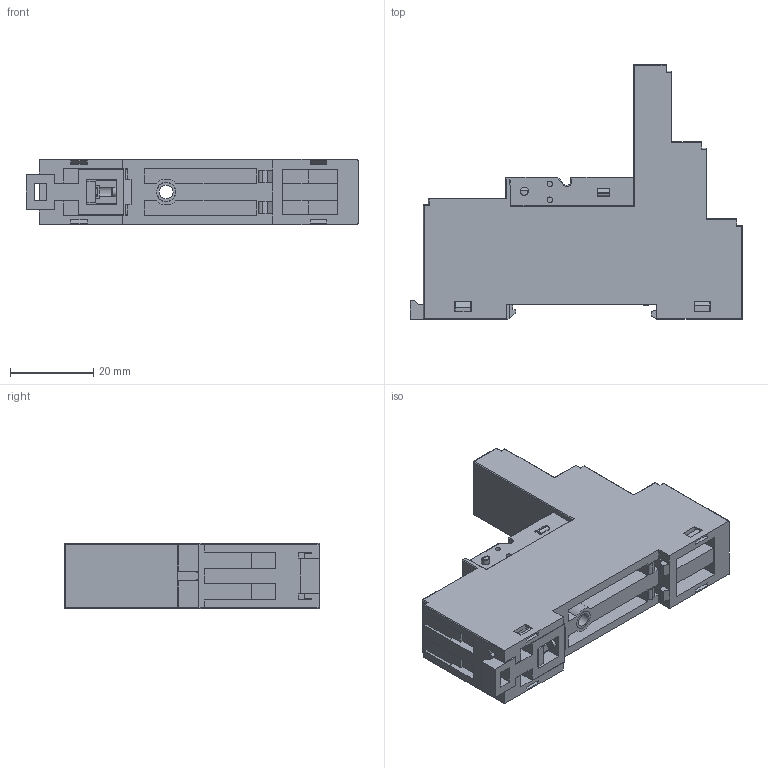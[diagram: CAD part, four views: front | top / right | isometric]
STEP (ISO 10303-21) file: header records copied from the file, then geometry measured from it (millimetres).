
FILE_DESCRIPTION (( 'STEP AP203' ), '1' );
FILE_NAME ('SRC05-E 俋倛.STEP', '2023-01-29T05:44:16', ( '' ), ( '' ), 'SwSTEP 2.0', 'SolidWorks 2018', '' );
FILE_SCHEMA (( 'CONFIG_CONTROL_DESIGN' ));
Length unit declared in the file: millimetre
Products named in the file (1): SRC05-E 俋倛
Bounding box: 79.6 x 61.1 x 15.6 mm (x, y, z)
Volume: 36456.6 mm3; surface area: 14180.7 mm2
Topology: 1 solids, 8 shells, 844 faces, 2234 edges, 1416 vertices
Faces by surface type: plane 574, cylinder 157, torus 65, cone 34, sphere 14
Entity records: 26447 total; most frequent: CARTESIAN_POINT 5620, ORIENTED_EDGE 4420, DIRECTION 4155, EDGE_CURVE 2210, VECTOR 1611, LINE 1611, VERTEX_POINT 1416, AXIS2_PLACEMENT_3D 1272
